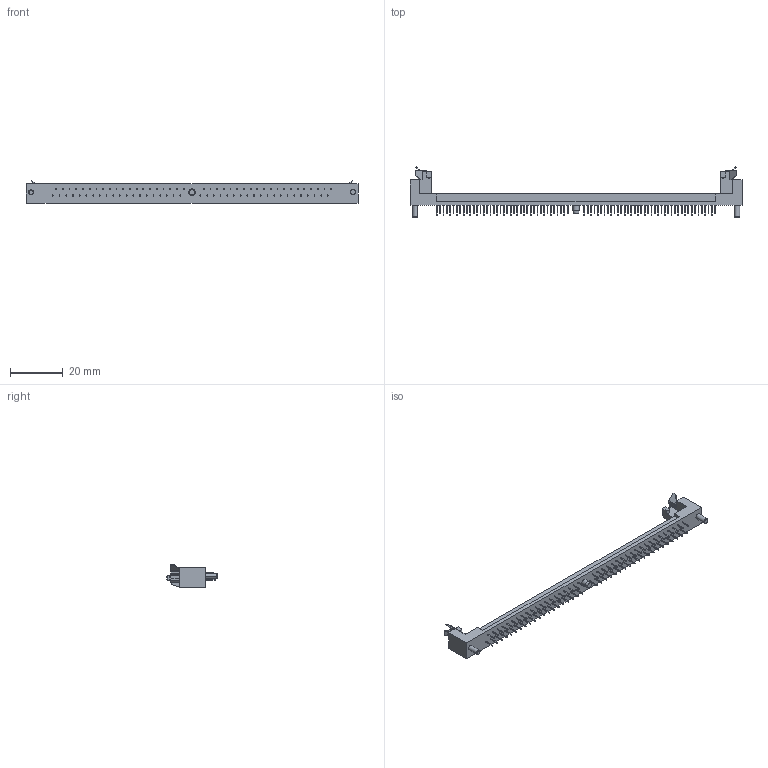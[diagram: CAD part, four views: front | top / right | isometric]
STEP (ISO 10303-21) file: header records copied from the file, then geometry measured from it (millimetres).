
FILE_DESCRIPTION((''),'2;1');
FILE_NAME('C-5822030-04-3','2007-09-01T',('workeradm'),('Tyco Electronics Corporation'),'PRO/ENGINEER BY PARAMETRIC TECHNOLOGY CORPORATION, 2005450','PRO/ENGINEER BY PARAMETRIC TECHNOLOGY CORPORATION, 2005450','');
FILE_SCHEMA(('CONFIG_CONTROL_DESIGN', 'GEOMETRIC_VALIDATION_PROPERTIES_MIM'));
Length unit declared in the file: millimetre
Products named in the file (1): C-5822030-04-3
Bounding box: 125.73 x 19.05 x 8.51 mm (x, y, z)
Volume: 3707.8 mm3; surface area: 4623.7 mm2
Topology: 1 solids, 1 shells, 1809 faces, 4676 edges, 3112 vertices
Faces by surface type: plane 1531, cylinder 272, cone 6
Entity records: 54605 total; most frequent: CARTESIAN_POINT 9604, ORIENTED_EDGE 9352, DIRECTION 8844, EDGE_CURVE 4676, VECTOR 4122, LINE 4122, VERTEX_POINT 3112, AXIS2_PLACEMENT_3D 2361
